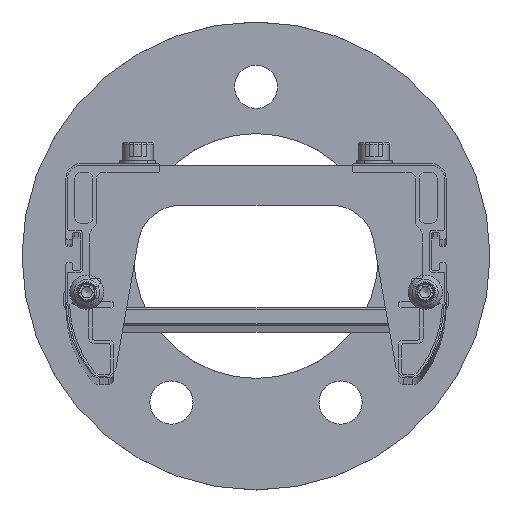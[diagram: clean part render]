
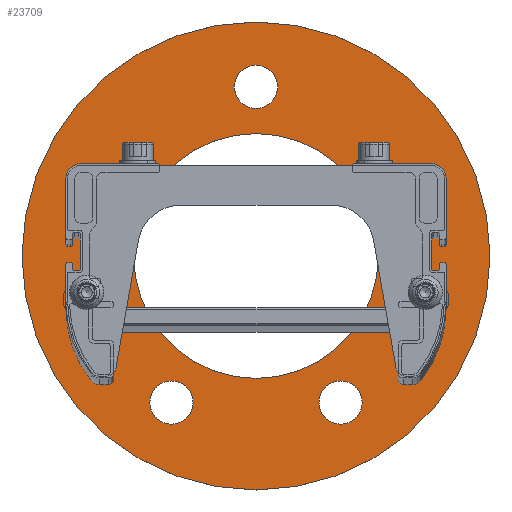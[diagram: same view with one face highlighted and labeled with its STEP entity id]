
A CAD part, top view. The second image highlights one B-rep face of the part: STEP entity #23709.
In plain terms, the highlighted planar face has unit normal (0, 0, 1).
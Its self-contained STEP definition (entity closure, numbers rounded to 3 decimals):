
#21015=PLANE('',#79142);
#23709=ADVANCED_FACE('',(#28367,#28368,#28369,#28370,#28371,#28372,#28373),
#21015,.T.);
#28367=FACE_BOUND('',#30713,.T.);
#28368=FACE_BOUND('',#30714,.T.);
#28369=FACE_BOUND('',#30715,.T.);
#28370=FACE_BOUND('',#30716,.T.);
#28371=FACE_BOUND('',#30717,.T.);
#28372=FACE_BOUND('',#30718,.T.);
#28373=FACE_BOUND('',#30719,.T.);
#30713=EDGE_LOOP('',(#39935));
#30714=EDGE_LOOP('',(#39936));
#30715=EDGE_LOOP('',(#39937));
#30716=EDGE_LOOP('',(#39938));
#30717=EDGE_LOOP('',(#39939));
#30718=EDGE_LOOP('',(#39940));
#30719=EDGE_LOOP('',(#39941));
#39935=ORIENTED_EDGE('',*,*,#65487,.F.);
#39936=ORIENTED_EDGE('',*,*,#65488,.F.);
#39937=ORIENTED_EDGE('',*,*,#65489,.F.);
#39938=ORIENTED_EDGE('',*,*,#65490,.T.);
#39939=ORIENTED_EDGE('',*,*,#65491,.T.);
#39940=ORIENTED_EDGE('',*,*,#65492,.T.);
#39941=ORIENTED_EDGE('',*,*,#65493,.F.);
#57302=VERTEX_POINT('',#127742);
#57303=VERTEX_POINT('',#127744);
#57304=VERTEX_POINT('',#127746);
#57305=VERTEX_POINT('',#127748);
#57306=VERTEX_POINT('',#127750);
#57307=VERTEX_POINT('',#127752);
#57308=VERTEX_POINT('',#127754);
#65487=EDGE_CURVE('',#57302,#57302,#74279,.T.);
#65488=EDGE_CURVE('',#57303,#57303,#74280,.T.);
#65489=EDGE_CURVE('',#57304,#57304,#74281,.T.);
#65490=EDGE_CURVE('',#57305,#57305,#74282,.T.);
#65491=EDGE_CURVE('',#57306,#57306,#74283,.T.);
#65492=EDGE_CURVE('',#57307,#57307,#74284,.T.);
#65493=EDGE_CURVE('',#57308,#57308,#74285,.T.);
#74279=CIRCLE('',#79135,6.);
#74280=CIRCLE('',#79136,6.);
#74281=CIRCLE('',#79137,6.);
#74282=CIRCLE('',#79138,34.);
#74283=CIRCLE('',#79139,3.6);
#74284=CIRCLE('',#79140,3.6);
#74285=CIRCLE('',#79141,65.);
#79135=AXIS2_PLACEMENT_3D('',#127741,#91792,#91793);
#79136=AXIS2_PLACEMENT_3D('',#127743,#91794,#91795);
#79137=AXIS2_PLACEMENT_3D('',#127745,#91796,#91797);
#79138=AXIS2_PLACEMENT_3D('',#127747,#91798,#91799);
#79139=AXIS2_PLACEMENT_3D('',#127749,#91800,#91801);
#79140=AXIS2_PLACEMENT_3D('',#127751,#91802,#91803);
#79141=AXIS2_PLACEMENT_3D('',#127753,#91804,#91805);
#79142=AXIS2_PLACEMENT_3D('',#127755,#91806,#91807);
#91792=DIRECTION('',(0.,0.,1.));
#91793=DIRECTION('',(-1.,0.,0.));
#91794=DIRECTION('',(0.,0.,1.));
#91795=DIRECTION('',(-1.,0.,0.));
#91796=DIRECTION('',(0.,0.,1.));
#91797=DIRECTION('',(-1.,0.,0.));
#91798=DIRECTION('',(0.,0.,-1.));
#91799=DIRECTION('',(-1.,0.,0.));
#91800=DIRECTION('',(0.,0.,-1.));
#91801=DIRECTION('',(1.,0.,0.));
#91802=DIRECTION('',(0.,0.,-1.));
#91803=DIRECTION('',(1.,0.,0.));
#91804=DIRECTION('',(0.,0.,-1.));
#91805=DIRECTION('',(-1.,0.,0.));
#91806=DIRECTION('',(0.,0.,1.));
#91807=DIRECTION('',(-1.,0.,0.));
#127741=CARTESIAN_POINT('',(293.846,-100.913,-285.));
#127742=CARTESIAN_POINT('',(287.846,-100.913,-285.));
#127743=CARTESIAN_POINT('',(317.346,-13.21,-285.));
#127744=CARTESIAN_POINT('',(311.346,-13.21,-285.));
#127745=CARTESIAN_POINT('',(340.846,-100.913,-285.));
#127746=CARTESIAN_POINT('',(334.846,-100.913,-285.));
#127747=CARTESIAN_POINT('',(317.346,-60.21,-285.));
#127748=CARTESIAN_POINT('',(283.346,-60.21,-285.));
#127749=CARTESIAN_POINT('',(364.346,-72.21,-285.));
#127750=CARTESIAN_POINT('',(367.946,-72.21,-285.));
#127751=CARTESIAN_POINT('',(270.346,-72.21,-285.));
#127752=CARTESIAN_POINT('',(273.946,-72.21,-285.));
#127753=CARTESIAN_POINT('',(317.346,-60.21,-285.));
#127754=CARTESIAN_POINT('',(252.346,-60.21,-285.));
#127755=CARTESIAN_POINT('',(252.346,-60.21,-285.));
